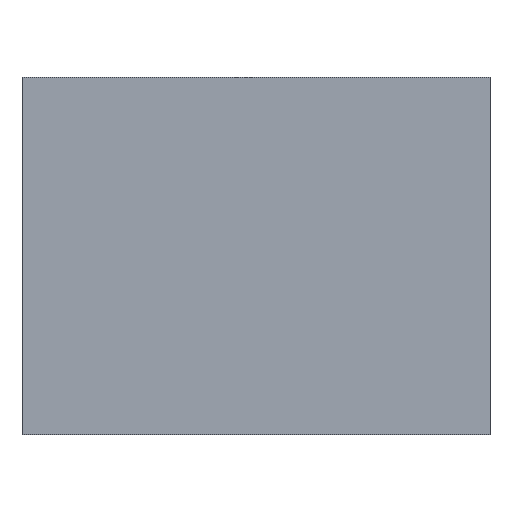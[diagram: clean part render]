
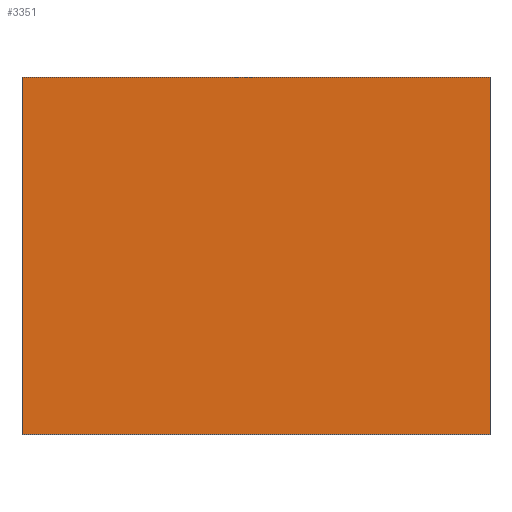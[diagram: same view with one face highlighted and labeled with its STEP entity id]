
A CAD part, top view. The second image highlights one B-rep face of the part: STEP entity #3351.
In plain terms, the highlighted planar face has unit normal (0, 0, 1).
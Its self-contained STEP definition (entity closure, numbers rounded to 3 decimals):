
#3215=CARTESIAN_POINT('Vertex',(105.5,80.5,31.)) ;
#3229=CARTESIAN_POINT('Vertex',(-105.5,80.5,31.)) ;
#3232=CARTESIAN_POINT('Line Origine',(0.,80.5,31.)) ;
#3260=CARTESIAN_POINT('Vertex',(-105.5,-80.5,31.)) ;
#3263=CARTESIAN_POINT('Line Origine',(-105.5,0.,31.)) ;
#3291=CARTESIAN_POINT('Vertex',(105.5,-80.5,31.)) ;
#3294=CARTESIAN_POINT('Line Origine',(0.,-80.5,31.)) ;
#3316=CARTESIAN_POINT('Line Origine',(105.5,0.,31.)) ;
#3340=CARTESIAN_POINT('Axis2P3D Location',(0.,0.,31.)) ;
#3233=DIRECTION('Vector Direction',(1.,0.,0.)) ;
#3264=DIRECTION('Vector Direction',(0.,1.,0.)) ;
#3295=DIRECTION('Vector Direction',(-1.,0.,0.)) ;
#3317=DIRECTION('Vector Direction',(0.,-1.,0.)) ;
#3341=DIRECTION('Axis2P3D Direction',(0.,0.,1.)) ;
#3342=DIRECTION('Axis2P3D XDirection',(1.,0.,0.)) ;
#3343=AXIS2_PLACEMENT_3D('Plane Axis2P3D',#3340,#3341,#3342) ;
#3346=ORIENTED_EDGE('',*,*,#3236,.T.) ;
#3347=ORIENTED_EDGE('',*,*,#3267,.T.) ;
#3348=ORIENTED_EDGE('',*,*,#3298,.T.) ;
#3349=ORIENTED_EDGE('',*,*,#3320,.T.) ;
#3234=VECTOR('Line Direction',#3233,1.) ;
#3265=VECTOR('Line Direction',#3264,1.) ;
#3296=VECTOR('Line Direction',#3295,1.) ;
#3318=VECTOR('Line Direction',#3317,1.) ;
#3351=ADVANCED_FACE('cavity',(#3350),#3344,.T.) ;
#3236=EDGE_CURVE('',#3216,#3230,#3235,.F.) ;
#3267=EDGE_CURVE('',#3230,#3261,#3266,.F.) ;
#3298=EDGE_CURVE('',#3261,#3292,#3297,.F.) ;
#3320=EDGE_CURVE('',#3292,#3216,#3319,.F.) ;
#3345=EDGE_LOOP('',(#3346,#3347,#3348,#3349)) ;
#3350=FACE_OUTER_BOUND('',#3345,.T.) ;
#3235=LINE('Line',#3232,#3234) ;
#3266=LINE('Line',#3263,#3265) ;
#3297=LINE('Line',#3294,#3296) ;
#3319=LINE('Line',#3316,#3318) ;
#3344=PLANE('Plane',#3343) ;
#3216=VERTEX_POINT('',#3215) ;
#3230=VERTEX_POINT('',#3229) ;
#3261=VERTEX_POINT('',#3260) ;
#3292=VERTEX_POINT('',#3291) ;
